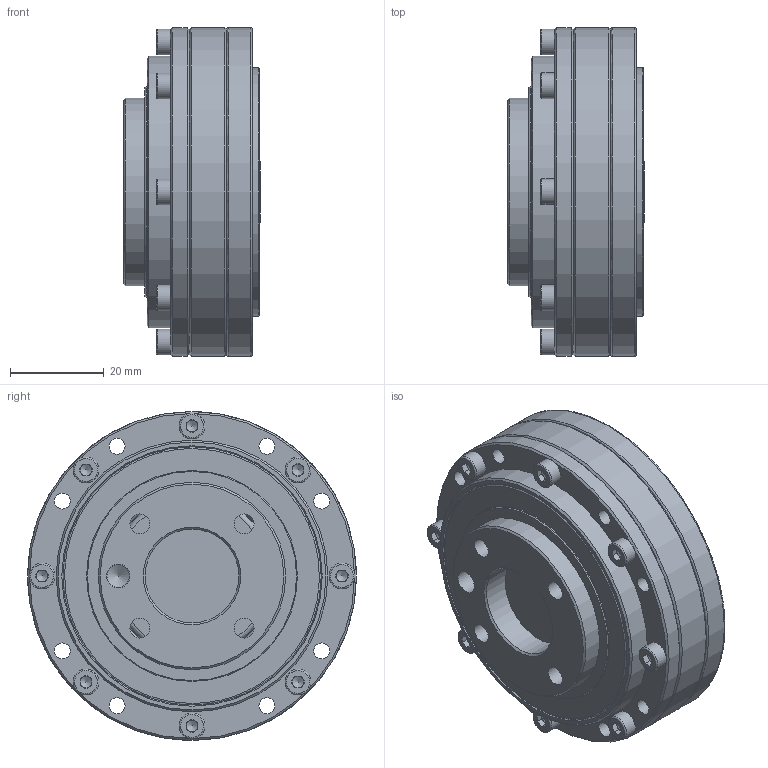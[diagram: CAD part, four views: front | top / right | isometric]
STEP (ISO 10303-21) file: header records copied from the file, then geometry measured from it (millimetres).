
FILE_DESCRIPTION (( 'STEP AP203' ), '1' );
FILE_NAME ('LCD-14-XXX-C-I.STEP', '2025-01-20T02:17:13', ( '' ), ( '' ), 'SwSTEP 2.0', 'SolidWorks 2023', '' );
FILE_SCHEMA (( 'CONFIG_CONTROL_DESIGN' ));
Length unit declared in the file: metre
Products named in the file (1): LCD-14-XXX-C-I
Bounding box: 29.2 x 70.2 x 70.2 mm (x, y, z)
Volume: 71501.9 mm3; surface area: 50600.4 mm2
Topology: 32 solids, 32 shells, 876 faces, 2192 edges, 1417 vertices
Faces by surface type: plane 440, cylinder 220, bspline 110, cone 106
Full cylindrical faces by diameter (mm): 1.6 x4, 2 x4, 2.05 x2, 2.4 x4, 2.5 x17, 3 x17, 3.3 x2, 3.4 x36, 3.5 x9, 3.8 x4, 4.2 x4, 4.5 x2, 4.8 x1, 5 x1, 5.5 x17, 11 x2, 13 x2, 20 x1, 23 x1, 23.5 x2, 24.1 x1, 25.07 x1, 25.5 x1, 26 x1, 26.5 x1, 26.63 x2, 27.6 x1, 29.5 x1, 31.4 x1, 32.4 x2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
Entity records: 28503 total; most frequent: CARTESIAN_POINT 9391, DIRECTION 3796, ORIENTED_EDGE 3624, EDGE_CURVE 1812, AXIS2_PLACEMENT_3D 1571, EDGE_LOOP 1394, VERTEX_POINT 1356, FACE_OUTER_BOUND 1090
